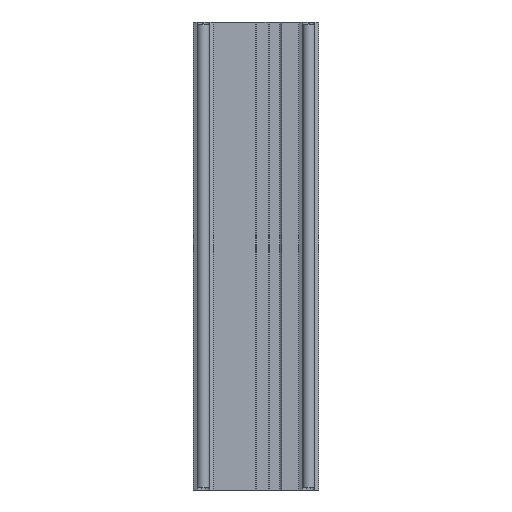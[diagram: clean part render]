
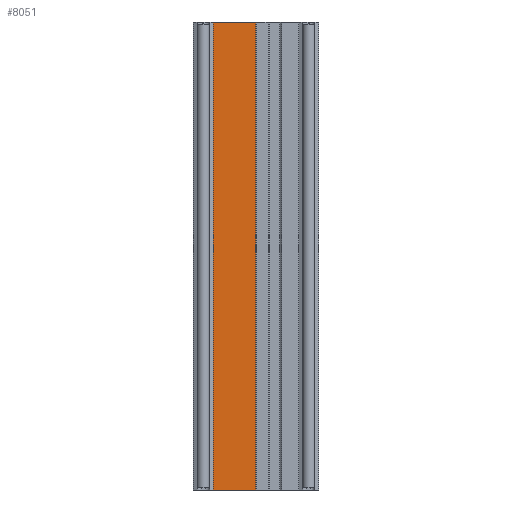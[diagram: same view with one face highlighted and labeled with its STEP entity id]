
A CAD part, left-side view. The second image highlights one B-rep face of the part: STEP entity #8051.
In plain terms, the highlighted planar face has unit normal (-1, 0, 0).
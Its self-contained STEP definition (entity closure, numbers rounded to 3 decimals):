
#4954 = CARTESIAN_POINT ( 'NONE',  ( -40., 40.3, 149. ) ) ;
#5085 = DIRECTION ( 'NONE',  ( 0., -1., 0. ) ) ;
#5086 = DIRECTION ( 'NONE',  ( -1., 0., 0. ) ) ;
#5087 = CARTESIAN_POINT ( 'NONE',  ( -40., 40.3, -149. ) ) ;
#5088 = AXIS2_PLACEMENT_3D ( 'NONE', #5087, #5086, #5085 ) ;
#5089 = PLANE ( 'NONE',  #5088 ) ;
#5090 = FACE_OUTER_BOUND ( 'NONE', #8052, .T. ) ;
#5095 = CARTESIAN_POINT ( 'NONE',  ( -40., 40.3, -149. ) ) ;
#5096 = DIRECTION ( 'NONE',  ( 0., 0., 1. ) ) ;
#5097 = VECTOR ( 'NONE', #5096, 1000. ) ;
#5098 = CARTESIAN_POINT ( 'NONE',  ( -40., 40.3, -149. ) ) ;
#5099 = LINE ( 'NONE', #5098, #5097 ) ;
#6106 = DIRECTION ( 'NONE',  ( 0., -1., 0. ) ) ;
#6107 = VECTOR ( 'NONE', #6106, 1000. ) ;
#6108 = CARTESIAN_POINT ( 'NONE',  ( -40., 40.3, -149. ) ) ;
#6109 = LINE ( 'NONE', #6108, #6107 ) ;
#6110 = CARTESIAN_POINT ( 'NONE',  ( -40., 67.222, -149. ) ) ;
#6111 = DIRECTION ( 'NONE',  ( 0., 0., 1. ) ) ;
#6112 = VECTOR ( 'NONE', #6111, 1000. ) ;
#6113 = CARTESIAN_POINT ( 'NONE',  ( -40., 67.222, -149. ) ) ;
#6114 = LINE ( 'NONE', #6113, #6112 ) ;
#6115 = CARTESIAN_POINT ( 'NONE',  ( -40., 67.222, 149. ) ) ;
#6116 = DIRECTION ( 'NONE',  ( 0., -1., 0. ) ) ;
#6117 = VECTOR ( 'NONE', #6116, 1000. ) ;
#6118 = CARTESIAN_POINT ( 'NONE',  ( -40., 40.3, 149. ) ) ;
#6119 = LINE ( 'NONE', #6118, #6117 ) ;
#7972 = ORIENTED_EDGE ( 'NONE', *, *, #7973, .F. ) ;
#7973 = EDGE_CURVE ( 'NONE', #7974, #8129, #6119, .T. ) ;
#7974 = VERTEX_POINT ( 'NONE', #6115 ) ;
#7975 = ORIENTED_EDGE ( 'NONE', *, *, #7976, .F. ) ;
#7976 = EDGE_CURVE ( 'NONE', #7977, #7974, #6114, .T. ) ;
#7977 = VERTEX_POINT ( 'NONE', #6110 ) ;
#7978 = ORIENTED_EDGE ( 'NONE', *, *, #7979, .T. ) ;
#7979 = EDGE_CURVE ( 'NONE', #7977, #8047, #6109, .T. ) ;
#7980 = ORIENTED_EDGE ( 'NONE', *, *, #8046, .T. ) ;
#8046 = EDGE_CURVE ( 'NONE', #8047, #8129, #5099, .T. ) ;
#8047 = VERTEX_POINT ( 'NONE', #5095 ) ;
#8051 = ADVANCED_FACE ( 'NONE', ( #5090 ), #5089, .T. ) ;
#8052 = EDGE_LOOP ( 'NONE', ( #7972, #7975, #7978, #7980 ) ) ;
#8129 = VERTEX_POINT ( 'NONE', #4954 ) ;
